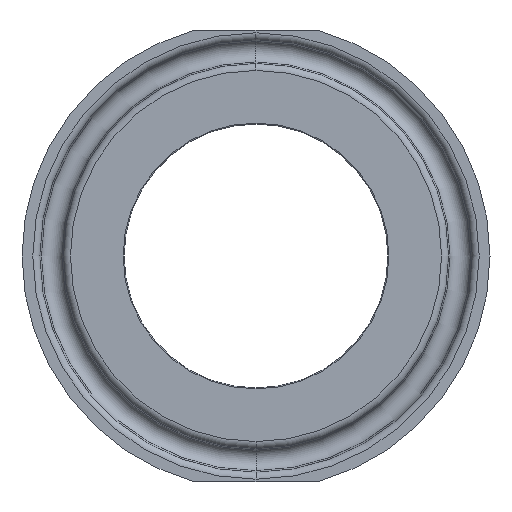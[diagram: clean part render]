
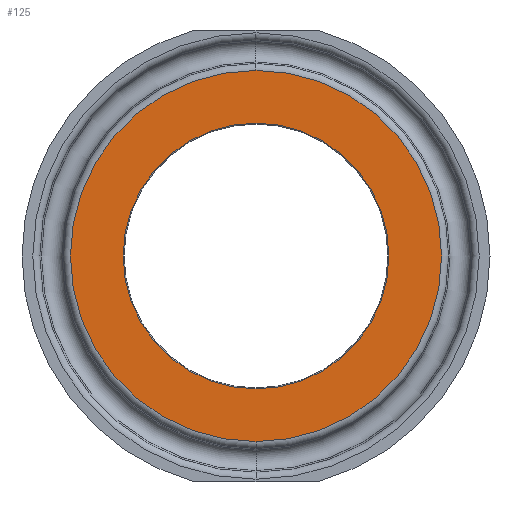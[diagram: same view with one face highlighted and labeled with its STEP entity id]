
A CAD part, front view. The second image highlights one B-rep face of the part: STEP entity #125.
In plain terms, the highlighted planar face has unit normal (0, -1, 0).
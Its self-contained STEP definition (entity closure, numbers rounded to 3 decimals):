
#125 = ADVANCED_FACE( '', ( #235, #236 ), #237, .T. );
#235 = FACE_BOUND( '', #354, .T. );
#236 = FACE_OUTER_BOUND( '', #355, .T. );
#237 = PLANE( '', #356 );
#354 = EDGE_LOOP( '', ( #781, #782, #783 ) );
#355 = EDGE_LOOP( '', ( #784, #785, #786 ) );
#356 = AXIS2_PLACEMENT_3D( '', #787, #788, #789 );
#781 = ORIENTED_EDGE( '', *, *, #975, .F. );
#782 = ORIENTED_EDGE( '', *, *, #974, .F. );
#783 = ORIENTED_EDGE( '', *, *, #916, .F. );
#784 = ORIENTED_EDGE( '', *, *, #972, .T. );
#785 = ORIENTED_EDGE( '', *, *, #919, .T. );
#786 = ORIENTED_EDGE( '', *, *, #973, .T. );
#787 = CARTESIAN_POINT( '', ( 12.45, 0., 0. ) );
#788 = DIRECTION( '', ( 0., -1., 0. ) );
#789 = DIRECTION( '', ( -1., 0., 0. ) );
#916 = EDGE_CURVE( '', #1123, #1125, #1126, .T. );
#919 = EDGE_CURVE( '', #1131, #1128, #1132, .T. );
#972 = EDGE_CURVE( '', #1218, #1131, #1219, .T. );
#973 = EDGE_CURVE( '', #1128, #1218, #1220, .T. );
#974 = EDGE_CURVE( '', #1125, #1221, #1222, .T. );
#975 = EDGE_CURVE( '', #1221, #1123, #1223, .T. );
#1123 = VERTEX_POINT( '', #1391 );
#1125 = VERTEX_POINT( '', #1393 );
#1126 = CIRCLE( '', #1394, 14.139 );
#1128 = VERTEX_POINT( '', #1396 );
#1131 = VERTEX_POINT( '', #1399 );
#1132 = CIRCLE( '', #1400, 19.747 );
#1218 = VERTEX_POINT( '', #1592 );
#1219 = CIRCLE( '', #1593, 19.747 );
#1220 = CIRCLE( '', #1594, 19.747 );
#1221 = VERTEX_POINT( '', #1595 );
#1222 = CIRCLE( '', #1596, 14.139 );
#1223 = CIRCLE( '', #1597, 14.139 );
#1391 = CARTESIAN_POINT( '', ( 0., 0., 14.139 ) );
#1393 = CARTESIAN_POINT( '', ( 0., 0., -14.139 ) );
#1394 = AXIS2_PLACEMENT_3D( '', #1796, #1797, #1798 );
#1396 = CARTESIAN_POINT( '', ( 0., 0., -19.747 ) );
#1399 = CARTESIAN_POINT( '', ( 0., 0., 19.747 ) );
#1400 = AXIS2_PLACEMENT_3D( '', #1805, #1806, #1807 );
#1592 = CARTESIAN_POINT( '', ( 19.747, 0., 0. ) );
#1593 = AXIS2_PLACEMENT_3D( '', #1922, #1923, #1924 );
#1594 = AXIS2_PLACEMENT_3D( '', #1925, #1926, #1927 );
#1595 = CARTESIAN_POINT( '', ( 14.139, 0., 0. ) );
#1596 = AXIS2_PLACEMENT_3D( '', #1928, #1929, #1930 );
#1597 = AXIS2_PLACEMENT_3D( '', #1931, #1932, #1933 );
#1796 = CARTESIAN_POINT( '', ( 0., 0., 0. ) );
#1797 = DIRECTION( '', ( 0., -1., 0. ) );
#1798 = DIRECTION( '', ( 0., 0., 1. ) );
#1805 = CARTESIAN_POINT( '', ( 0., 0., 0. ) );
#1806 = DIRECTION( '', ( 0., -1., 0. ) );
#1807 = DIRECTION( '', ( 0., 0., 1. ) );
#1922 = CARTESIAN_POINT( '', ( 0., 0., 0. ) );
#1923 = DIRECTION( '', ( 0., -1., 0. ) );
#1924 = DIRECTION( '', ( 0., 0., 1. ) );
#1925 = CARTESIAN_POINT( '', ( 0., 0., 0. ) );
#1926 = DIRECTION( '', ( 0., -1., 0. ) );
#1927 = DIRECTION( '', ( 0., 0., 1. ) );
#1928 = CARTESIAN_POINT( '', ( 0., 0., 0. ) );
#1929 = DIRECTION( '', ( 0., -1., 0. ) );
#1930 = DIRECTION( '', ( 0., 0., 1. ) );
#1931 = CARTESIAN_POINT( '', ( 0., 0., 0. ) );
#1932 = DIRECTION( '', ( 0., -1., 0. ) );
#1933 = DIRECTION( '', ( 0., 0., 1. ) );
